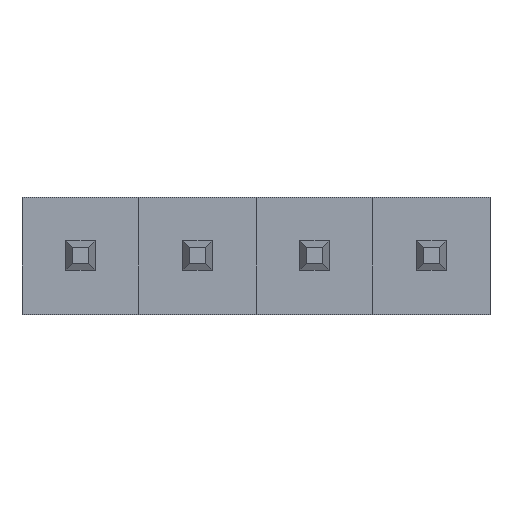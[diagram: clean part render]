
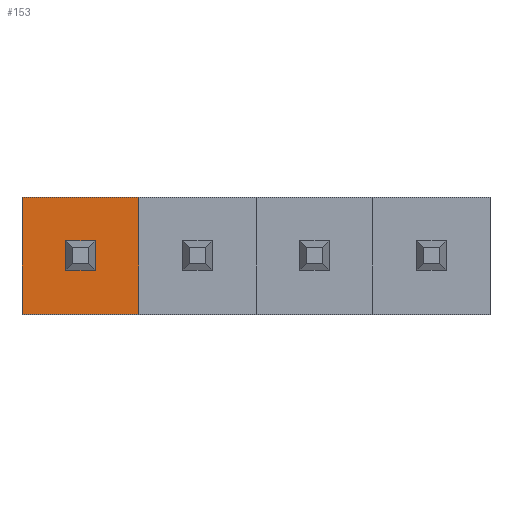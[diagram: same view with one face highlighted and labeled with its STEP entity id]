
A CAD part, top view. The second image highlights one B-rep face of the part: STEP entity #153.
In plain terms, the highlighted planar face has unit normal (0, 0, 1).
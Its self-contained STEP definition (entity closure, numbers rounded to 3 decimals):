
#20 = CARTESIAN_POINT('',(-5.08,-1.27,2.));
#21 = VERTEX_POINT('',#20);
#22 = CARTESIAN_POINT('',(-5.08,1.27,2.));
#23 = VERTEX_POINT('',#22);
#31 = DIRECTION('',(0.,1.,0.));
#32 = VECTOR('',#31,1.);
#33 = LINE('',#20,#32);
#34 = EDGE_CURVE('',#21,#23,#33,.T.);
#58 = CARTESIAN_POINT('',(-2.54,1.27,2.));
#59 = VERTEX_POINT('',#58);
#60 = CARTESIAN_POINT('',(-2.54,-1.27,2.));
#61 = VERTEX_POINT('',#60);
#72 = DIRECTION('',(0.,1.,0.));
#73 = VECTOR('',#72,1.);
#74 = LINE('',#60,#73);
#75 = EDGE_CURVE('',#61,#59,#74,.T.);
#96 = DIRECTION('',(-1.,0.,0.));
#97 = VECTOR('',#96,1.);
#98 = LINE('',#60,#97);
#99 = EDGE_CURVE('',#61,#21,#98,.T.);
#111 = DIRECTION('',(-1.,0.,0.));
#112 = VECTOR('',#111,1.);
#113 = LINE('',#58,#112);
#114 = EDGE_CURVE('',#59,#23,#113,.T.);
#142 = ORIENTED_EDGE('',*,*,#99,.F.);
#143 = ORIENTED_EDGE('',*,*,#75,.T.);
#144 = ORIENTED_EDGE('',*,*,#114,.T.);
#145 = ORIENTED_EDGE('',*,*,#34,.F.);
#146 = CARTESIAN_POINT('',(-5.08,-1.27,2.));
#147 = DIRECTION('',(0.,0.,1.));
#148 = DIRECTION('',(1.,0.,0.));
#149 = AXIS2_PLACEMENT_3D('',#146,#147,#148);
#150 = PLANE('',#149);
#151 = EDGE_LOOP('',(#142,#143,#144,#145));
#152 = FACE_OUTER_BOUND('',#151,.T.);
#153 = ADVANCED_FACE('',(#152),#150,.T.);
